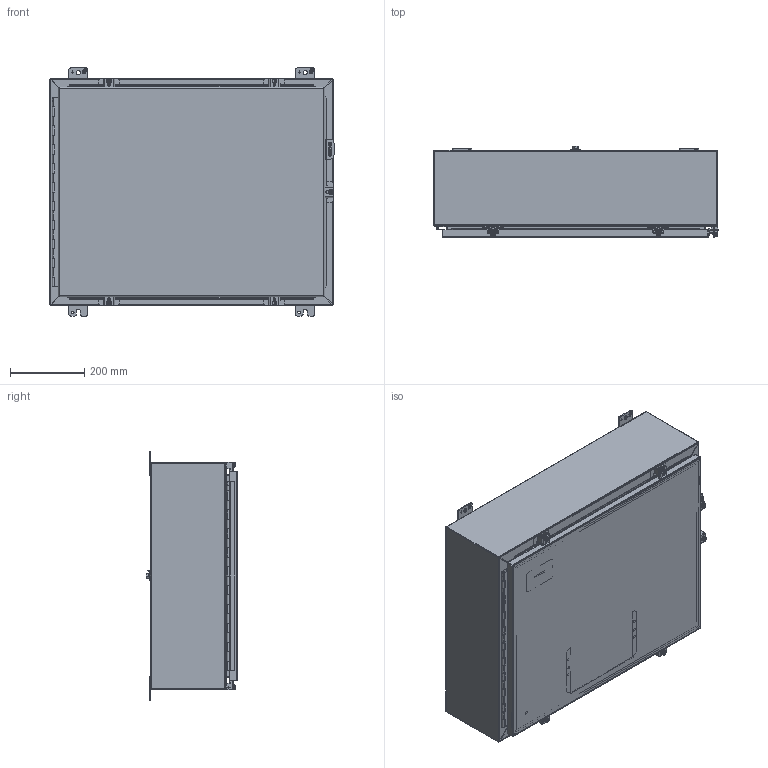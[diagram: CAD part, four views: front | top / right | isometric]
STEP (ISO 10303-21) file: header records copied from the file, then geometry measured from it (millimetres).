
FILE_DESCRIPTION(/* description */ ('Unknown'),/* implementation_level */ '2;1');
FILE_NAME(/* name */ '1418N4SSKR8',/* time_stamp */ '2018-11-27T10:51:01-05:00',/* author */ ('Unknown'),/* organization */ ('Unknown'),/* preprocessor_version */ 'ST-DEVELOPER v16.7',/* originating_system */ 'DEX',/* authorisation */ $);
FILE_SCHEMA (('AUTOMOTIVE_DESIGN {1 0 10303 214 3 1 1}'));
Length unit declared in the file: millimetre
Products named in the file (32): 1418N4SSKR8; COM70220_oa_0; HNG10620-20B; COM42780; COM48602; COM40153-2; HNG10620-20C; STD26258; COM70726-1; AKT90223; SPR20265; SCC19011; WAF25035; COM42667; PKT99; BUL10020; AKT95002; WAF25059; NTS166105; KIT95018; LAB30005; KIT90256; NTS165305; NTS16535; FET07720; QLB20188; STD26089; COM40153-1; QLB20254; HNG10620-20P; COM40678
Assembly tree (50 placements, depth 3):
  1418N4SSKR8
    COM70220_oa_0
    HNG10620-20B
    COM42780  x5
    COM48602
      COM40153-2
      HNG10620-20C
      COM48602
      STD26258
    COM70726-1
    AKT90223  x5
      SPR20265
      SCC19011
      WAF25035
      COM42667
    PKT99
    BUL10020
    AKT95002  x2
      WAF25059
      NTS166105
    KIT95018
      WAF25059
      NTS166105
      LAB30005
    KIT90256
      LAB30005
      NTS165305
      NTS16535
    FET07720  x4
    QLB20188
    STD26258
    STD26089  x4
    COM40153-1
    QLB20254
    HNG10620-20P
    COM40678
Bounding box: 763.6 x 245.52 x 666.75 mm (x, y, z)
Volume: 4329854.5 mm3; surface area: 4450953 mm2
Topology: 55 solids, 56 shells, 1933 faces, 5026 edges, 3280 vertices
Faces by surface type: plane 1253, cylinder 439, bspline 191, torus 26, cone 22, sphere 2
Full cylindrical faces by diameter (mm): 3.175 x1, 4.763 x1, 4.976 x1, 5.41 x5, 6.198 x5, 6.35 x3, 6.731 x5, 7.805 x3, 7.938 x6, 8.433 x4, 9.525 x4, 9.906 x5, 11.113 x4, 11.303 x3, 12.7 x9, 16.51 x4, 25.4 x3, 88.9 x1
Entity records: 40186 total; most frequent: CARTESIAN_POINT 12705, ORIENTED_EDGE 5882, DIRECTION 4865, EDGE_CURVE 2941, VERTEX_POINT 1910, LINE 1825, VECTOR 1825, AXIS2_PLACEMENT_3D 1520
